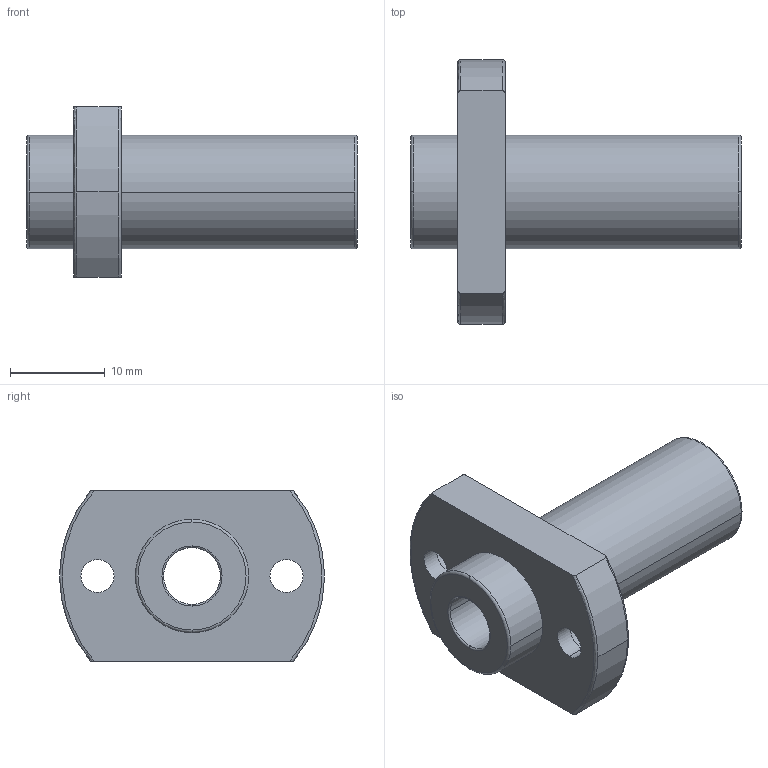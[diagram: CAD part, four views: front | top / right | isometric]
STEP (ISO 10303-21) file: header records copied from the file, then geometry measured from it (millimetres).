
FILE_DESCRIPTION(('FreeCAD Model'),'2;1');
FILE_NAME('Open CASCADE Shape Model','2021-05-03T14:40:19',('Author'),( ''),'Open CASCADE STEP processor 7.5','FreeCAD','Unknown');
FILE_SCHEMA(('AUTOMOTIVE_DESIGN { 1 0 10303 214 1 1 1 1 }'));
Length unit declared in the file: millimetre
Products named in the file (1): linear_lmhp6luu
Bounding box: 35 x 28 x 18 mm (x, y, z)
Volume: 4522.3 mm3; surface area: 3176.2 mm2
Topology: 1 solids, 1 shells, 38 faces, 100 edges, 68 vertices
Faces by surface type: cylinder 18, torus 12, plane 8
Entity records: 3120 total; most frequent: CARTESIAN_POINT 1083, DIRECTION 400, ORIENTED_EDGE 200, PCURVE 200, DEFINITIONAL_REPRESENTATION 200, LINE 172, VECTOR 172, AXIS2_PLACEMENT_3D 107
